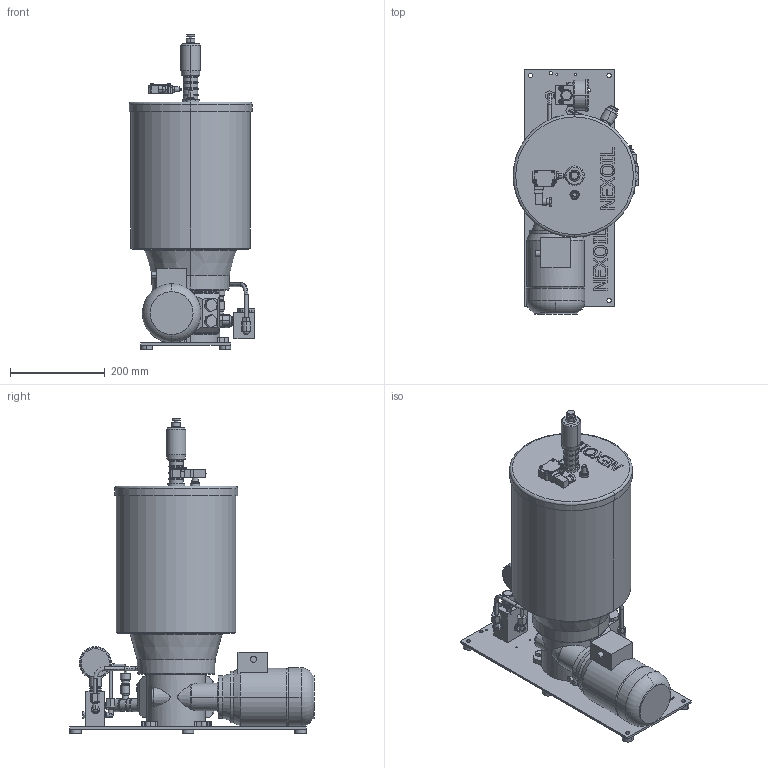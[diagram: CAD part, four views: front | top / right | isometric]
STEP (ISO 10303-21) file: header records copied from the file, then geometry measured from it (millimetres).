
FILE_DESCRIPTION((''),'2;1');
FILE_NAME('FM1_10KG.stp','2017-06-05T14:39:26',(''),(''),'Mechanical Desktop 2008','Mechanical Desktop 2008',', , ');
FILE_SCHEMA(('AUTOMOTIVE_DESIGN { 1 2 10303 214 1 1 1 1 }'));
Length unit declared in the file: millimetre
Products named in the file (23): 6015068; PART1AA; 7050013; PART1; 9083005; PART1AAA; 8289009; PART2A; 8128004; PART1A; 8289010; PART3; PART2; ~~~PART1; ~~PART2; ~~(SHEETMETAL) TAPPING SCREW - ISO 7049 - ST 2.9 X 6.5 - C - H; ~PART1; ~~~~~~PART1; ~~~~~PART1; ~~~~PART1; ~~~~~~~PART1; ~~~~~~~~PART1; PART4
Assembly tree (24 placements, depth 3):
  6015068
    PART1AA
    7050013
      PART1
    9083005
      PART1AAA
    8289009
      PART2A
    8128004
      PART1A
    8289010  x3
      PART3
    PART2
    ~~~PART1
    ~~PART2
    ~~(SHEETMETAL) TAPPING SCREW - ISO 7049 - ST 2.9 X 6.5 - C - H
    ~PART1
    ~~~~~~PART1
    ~~~~~PART1
    ~~~~PART1
    ~~~~~~~PART1
    ~~~~~~~~PART1
    PART4
Bounding box: 266.03 x 517 x 668.22 mm (x, y, z)
Volume: 22424265.1 mm3; surface area: 978641.2 mm2
Topology: 24 solids, 24 shells, 1411 faces, 3476 edges, 2230 vertices
Faces by surface type: plane 654, cylinder 399, cone 170, bspline 138, torus 41, sphere 9
Full cylindrical faces by diameter (mm): 26.533 x1
Entity records: 42666 total; most frequent: CARTESIAN_POINT 9986, DIRECTION 6723, ORIENTED_EDGE 6676, EDGE_CURVE 3338, AXIS2_PLACEMENT_3D 2415, VERTEX_POINT 2145, VECTOR 1893, LINE 1893
